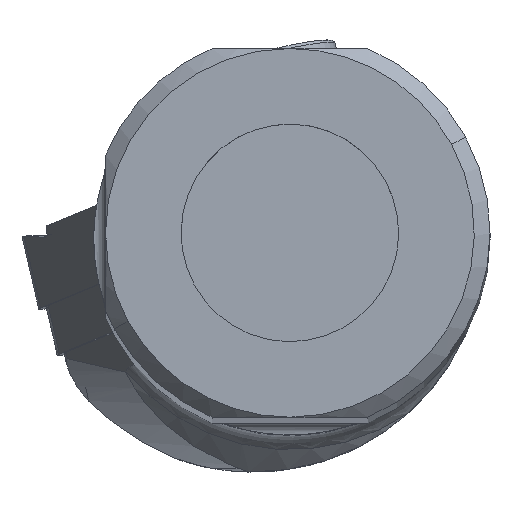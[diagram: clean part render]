
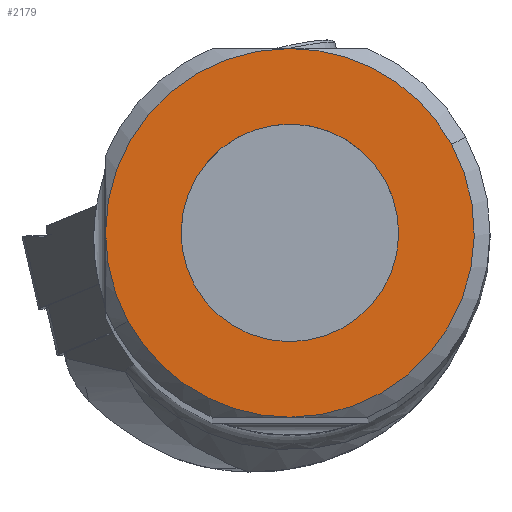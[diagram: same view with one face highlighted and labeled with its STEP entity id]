
A CAD part, top view. The second image highlights one B-rep face of the part: STEP entity #2179.
In plain terms, the highlighted planar face has unit normal (0, 0, 1).
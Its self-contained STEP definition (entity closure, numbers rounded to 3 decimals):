
#2077=AXIS2_PLACEMENT_3D('Circle Axis2P3D',#2075,#2076,$) ;
#2103=AXIS2_PLACEMENT_3D('Circle Axis2P3D',#2101,#2102,$) ;
#2115=AXIS2_PLACEMENT_3D('Circle Axis2P3D',#2113,#2114,$) ;
#2127=AXIS2_PLACEMENT_3D('Circle Axis2P3D',#2125,#2126,$) ;
#2139=AXIS2_PLACEMENT_3D('Circle Axis2P3D',#2137,#2138,$) ;
#2152=AXIS2_PLACEMENT_3D('Plane Axis2P3D',#2149,#2150,#2151) ;
#2163=AXIS2_PLACEMENT_3D('Circle Axis2P3D',#2161,#2162,$) ;
#2172=AXIS2_PLACEMENT_3D('Circle Axis2P3D',#2170,#2171,$) ;
#1903=CARTESIAN_POINT('Vertex',(0.,-11.7,0.)) ;
#1966=CARTESIAN_POINT('Vertex',(0.,11.7,0.)) ;
#2045=CARTESIAN_POINT('Vertex',(-11.7,0.,0.)) ;
#2075=CARTESIAN_POINT('Axis2P3D Location',(0.,0.,0.)) ;
#2079=CARTESIAN_POINT('Vertex',(-10.268,-5.609,0.)) ;
#2098=CARTESIAN_POINT('Vertex',(10.268,5.609,0.)) ;
#2101=CARTESIAN_POINT('Axis2P3D Location',(0.,0.,0.)) ;
#2113=CARTESIAN_POINT('Axis2P3D Location',(0.,0.,0.)) ;
#2125=CARTESIAN_POINT('Axis2P3D Location',(0.,0.,0.)) ;
#2137=CARTESIAN_POINT('Axis2P3D Location',(0.,0.,0.)) ;
#2149=CARTESIAN_POINT('Axis2P3D Location',(11.7,0.,0.)) ;
#2161=CARTESIAN_POINT('Axis2P3D Location',(0.,0.,0.)) ;
#2165=CARTESIAN_POINT('Vertex',(6.059,3.31,0.)) ;
#2167=CARTESIAN_POINT('Vertex',(-6.059,-3.31,0.)) ;
#2170=CARTESIAN_POINT('Axis2P3D Location',(0.,0.,0.)) ;
#2076=DIRECTION('Axis2P3D Direction',(0.,0.,-1.)) ;
#2102=DIRECTION('Axis2P3D Direction',(0.,0.,-1.)) ;
#2114=DIRECTION('Axis2P3D Direction',(0.,0.,-1.)) ;
#2126=DIRECTION('Axis2P3D Direction',(0.,0.,-1.)) ;
#2138=DIRECTION('Axis2P3D Direction',(0.,0.,-1.)) ;
#2150=DIRECTION('Axis2P3D Direction',(0.,0.,1.)) ;
#2151=DIRECTION('Axis2P3D XDirection',(1.,0.,0.)) ;
#2162=DIRECTION('Axis2P3D Direction',(0.,0.,1.)) ;
#2171=DIRECTION('Axis2P3D Direction',(0.,0.,1.)) ;
#2155=ORIENTED_EDGE('',*,*,#2081,.T.) ;
#2156=ORIENTED_EDGE('',*,*,#2105,.T.) ;
#2157=ORIENTED_EDGE('',*,*,#2117,.T.) ;
#2158=ORIENTED_EDGE('',*,*,#2129,.T.) ;
#2159=ORIENTED_EDGE('',*,*,#2141,.T.) ;
#2176=ORIENTED_EDGE('',*,*,#2169,.F.) ;
#2177=ORIENTED_EDGE('',*,*,#2174,.F.) ;
#2178=FACE_BOUND('',#2175,.T.) ;
#2179=ADVANCED_FACE('NO_CUT',(#2160,#2178),#2153,.T.) ;
#2078=CIRCLE('generated circle',#2077,11.7) ;
#2104=CIRCLE('generated circle',#2103,11.7) ;
#2116=CIRCLE('generated circle',#2115,11.7) ;
#2128=CIRCLE('generated circle',#2127,11.7) ;
#2140=CIRCLE('generated circle',#2139,11.7) ;
#2164=CIRCLE('generated circle',#2163,6.905) ;
#2173=CIRCLE('generated circle',#2172,6.905) ;
#2081=EDGE_CURVE('',#2080,#1904,#2078,.F.) ;
#2105=EDGE_CURVE('',#1904,#2099,#2104,.F.) ;
#2117=EDGE_CURVE('',#2099,#1967,#2116,.F.) ;
#2129=EDGE_CURVE('',#1967,#2046,#2128,.F.) ;
#2141=EDGE_CURVE('',#2046,#2080,#2140,.F.) ;
#2169=EDGE_CURVE('',#2166,#2168,#2164,.T.) ;
#2174=EDGE_CURVE('',#2168,#2166,#2173,.T.) ;
#2154=EDGE_LOOP('',(#2155,#2156,#2157,#2158,#2159)) ;
#2175=EDGE_LOOP('',(#2176,#2177)) ;
#2160=FACE_OUTER_BOUND('',#2154,.T.) ;
#2153=PLANE('',#2152) ;
#1904=VERTEX_POINT('',#1903) ;
#1967=VERTEX_POINT('',#1966) ;
#2046=VERTEX_POINT('',#2045) ;
#2080=VERTEX_POINT('',#2079) ;
#2099=VERTEX_POINT('',#2098) ;
#2166=VERTEX_POINT('',#2165) ;
#2168=VERTEX_POINT('',#2167) ;
